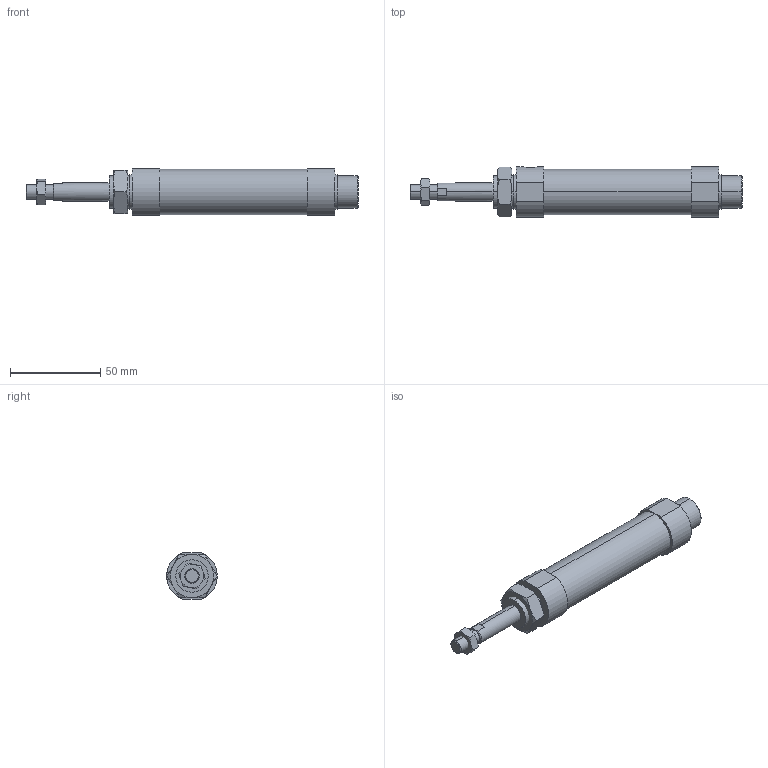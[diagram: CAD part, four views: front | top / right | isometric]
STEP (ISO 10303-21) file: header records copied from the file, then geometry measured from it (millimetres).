
FILE_DESCRIPTION (( 'STEP AP203' ), '1' );
FILE_NAME ('J#0-20-25-N.STEP', '2016-03-08T06:26:24', ( '' ), ( '' ), 'SwSTEP 2.0', 'SolidWorks 2014', '' );
FILE_SCHEMA (( 'CONFIG_CONTROL_DESIGN' ));
Length unit declared in the file: millimetre
Products named in the file (4): J#0-20-25-N; J#0-20-25
Assembly tree (3 placements, depth 2):
  J#0-20-25-N
    J#0-20-25
    (unnamed)
    (unnamed)
Bounding box: 184 x 28 x 26 mm (x, y, z)
Volume: 70207.3 mm3; surface area: 15794.7 mm2
Topology: 3 solids, 3 shells, 89 faces, 192 edges, 118 vertices
Faces by surface type: plane 35, cylinder 24, torus 24, cone 6
Entity records: 3110 total; most frequent: CARTESIAN_POINT 795, DIRECTION 408, ORIENTED_EDGE 384, EDGE_CURVE 192, AXIS2_PLACEMENT_3D 175, VERTEX_POINT 118, EDGE_LOOP 102, ADVANCED_FACE 89
